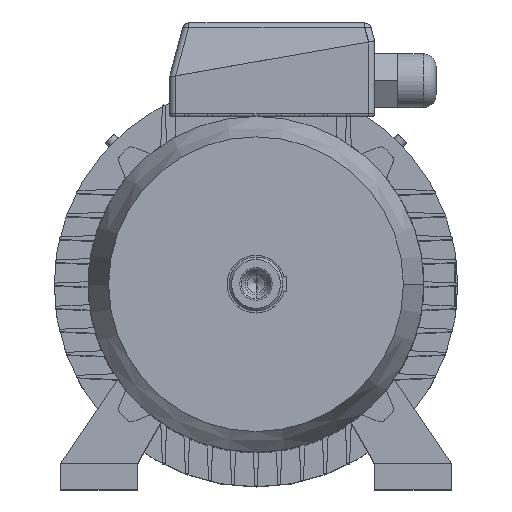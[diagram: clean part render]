
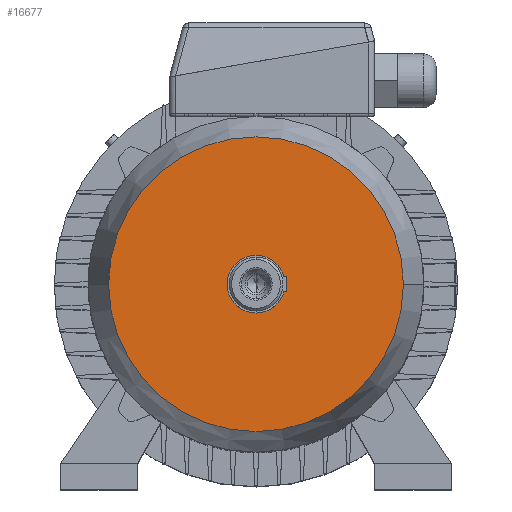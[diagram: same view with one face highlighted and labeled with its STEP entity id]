
A CAD part, top view. The second image highlights one B-rep face of the part: STEP entity #16677.
In plain terms, the highlighted planar face has unit normal (0, 0, 1).
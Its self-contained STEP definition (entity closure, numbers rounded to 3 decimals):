
#16677 = ADVANCED_FACE ( 'NONE', ( #12024 ), #12025, .T. ) ;
#580 = VERTEX_POINT ( 'NONE', #15730 ) ;
#1815 = ORIENTED_EDGE ( 'NONE', *, *, #7666, .F. ) ;
#2015 = CIRCLE ( 'NONE', #2016, 115. ) ;
#2016 = AXIS2_PLACEMENT_3D ( 'NONE', #2025, #2026, #2027 ) ;
#2025 = CARTESIAN_POINT ( 'NONE',  ( 0., 0., 59. ) ) ;
#2026 = DIRECTION ( 'NONE',  ( 0., 0., -1. ) ) ;
#2027 = DIRECTION ( 'NONE',  ( -1., 0., 0. ) ) ;
#2071 = CARTESIAN_POINT ( 'NONE',  ( -115., 0., 59. ) ) ;
#2209 = CIRCLE ( 'NONE', #2210, 115. ) ;
#2210 = AXIS2_PLACEMENT_3D ( 'NONE', #2211, #2212, #2213 ) ;
#2211 = CARTESIAN_POINT ( 'NONE',  ( 0., 0., 59. ) ) ;
#2212 = DIRECTION ( 'NONE',  ( 0., 0., -1. ) ) ;
#2213 = DIRECTION ( 'NONE',  ( -1., 0., 0. ) ) ;
#7666 = EDGE_CURVE ( 'NONE', #580, #7774, #2015, .T. ) ;
#7774 = VERTEX_POINT ( 'NONE', #2071 ) ;
#8032 = EDGE_CURVE ( 'NONE', #7774, #580, #2209, .T. ) ;
#12024 = FACE_OUTER_BOUND ( 'NONE', #14666, .T. ) ;
#12025 = PLANE ( 'NONE',  #12026 ) ;
#12026 = AXIS2_PLACEMENT_3D ( 'NONE', #12027, #12030, #12031 ) ;
#12027 = CARTESIAN_POINT ( 'NONE',  ( 0., 115., 59. ) ) ;
#12030 = DIRECTION ( 'NONE',  ( 0., 0., 1. ) ) ;
#12031 = DIRECTION ( 'NONE',  ( 1., 0., 0. ) ) ;
#14110 = ORIENTED_EDGE ( 'NONE', *, *, #8032, .F. ) ;
#14666 = EDGE_LOOP ( 'NONE', ( #14110, #1815 ) ) ;
#15730 = CARTESIAN_POINT ( 'NONE',  ( 115., 0., 59. ) ) ;
